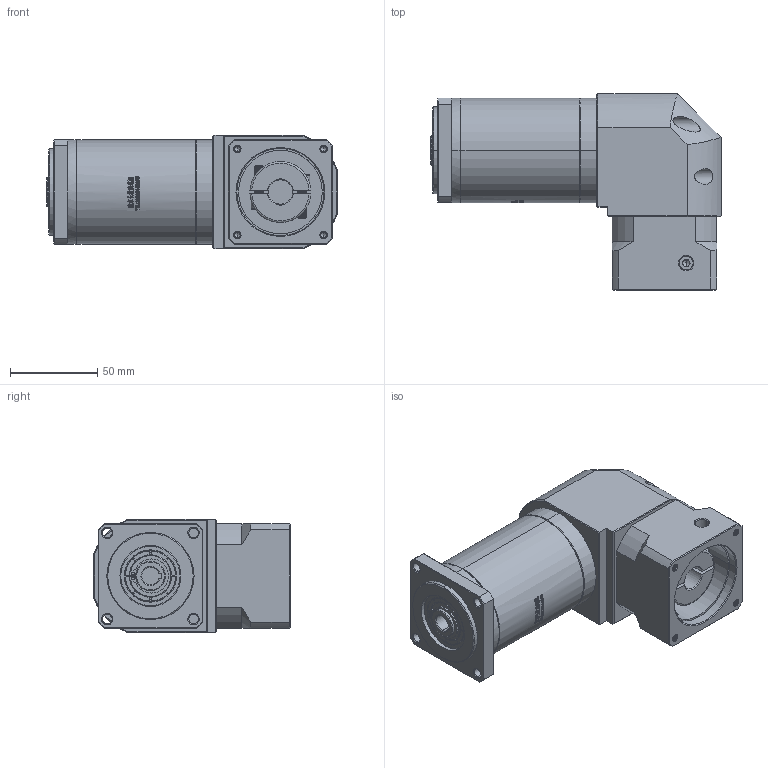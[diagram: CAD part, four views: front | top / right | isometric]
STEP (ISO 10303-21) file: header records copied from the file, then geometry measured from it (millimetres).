
FILE_DESCRIPTION (( 'STEP AP214' ), '1' );
FILE_NAME ('ZFR60-K10-L3-14-50-70-M4.STEP', '2022-04-20T08:59:10', ( '' ), ( 'Microsoft' ), 'SwSTEP 2.0', 'SolidWorks 2016', '' );
FILE_SCHEMA (( 'AUTOMOTIVE_DESIGN' ));
Length unit declared in the file: millimetre
Products named in the file (1): ZFR60-K10-L3-14-50-70-M4
Bounding box: 166.5 x 112.7 x 65 mm (x, y, z)
Volume: 628882.6 mm3; surface area: 83993.8 mm2
Topology: 5 solids, 6 shells, 2619 faces, 7122 edges, 4639 vertices
Faces by surface type: plane 1390, bspline 584, cylinder 351, cone 282, torus 12
Entity records: 140605 total; most frequent: CARTESIAN_POINT 51082, ORIENTED_EDGE 14204, DIRECTION 10200, EDGE_CURVE 7102, VERTEX_POINT 4639, VECTOR 4318, LINE 4318, AXIS2_PLACEMENT_3D 2941
